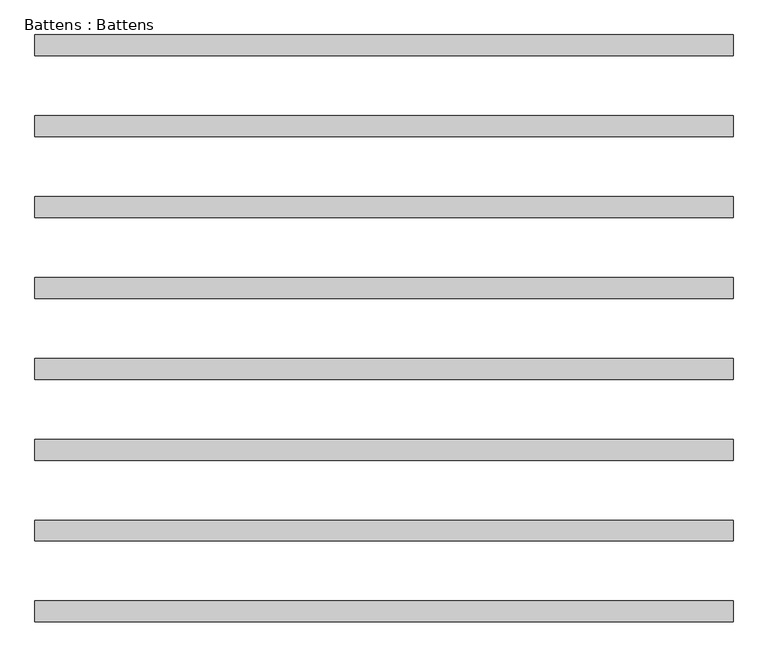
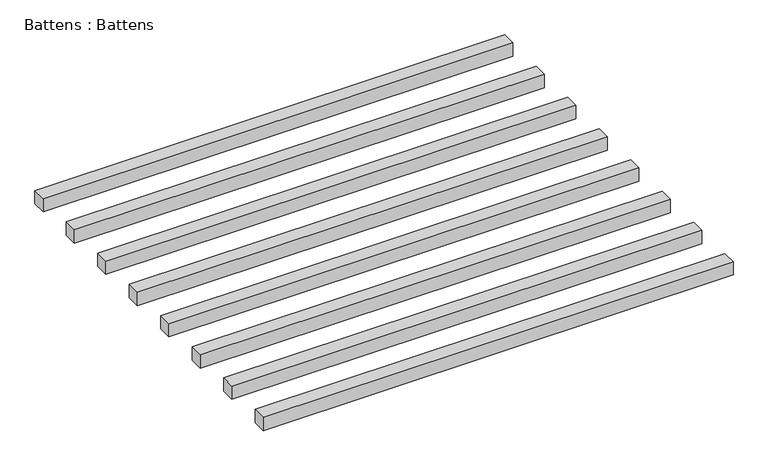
"""IFC4 building model written with IfcOpenShell, lengths in millimetres: proxy geometry, Battens : Battens."""

from ifc_helpers import new_model, si_unit, origin, origin_with_axes, place, context, project, spatial, polyline, outline, extrude, source, transform, mapped, element, save


def battens_battens_69cfc6a3(model_context):
    return source(origin(), model_context, "Body", "SweptSolid", [
        extrude(outline(polyline([(1337.0, -1065.0), (1337.0, -1105.0), (0.0, -1105.0), (0.0, -1065.0), (1337.0, -1065.0)])), origin_with_axes(), (0.0, 0.0, 1.0), 40.0),
        extrude(outline(polyline([(1337.0, -910.0), (1337.0, -950.0), (0.0, -950.0), (0.0, -910.0), (1337.0, -910.0)])), origin_with_axes(), (0.0, 0.0, 1.0), 40.0),
        extrude(outline(polyline([(1337.0, -755.0), (1337.0, -795.0), (0.0, -795.0), (0.0, -755.0), (1337.0, -755.0)])), origin_with_axes(), (0.0, 0.0, 1.0), 40.0),
        extrude(outline(polyline([(1337.0, -600.0), (1337.0, -640.0), (0.0, -640.0), (0.0, -600.0), (1337.0, -600.0)])), origin_with_axes(), (0.0, 0.0, 1.0), 40.0),
        extrude(outline(polyline([(1337.0, -445.0), (1337.0, -485.0), (0.0, -485.0), (0.0, -445.0), (1337.0, -445.0)])), origin_with_axes(), (0.0, 0.0, 1.0), 40.0),
        extrude(outline(polyline([(1337.0, -290.0), (1337.0, -330.0), (0.0, -330.0), (0.0, -290.0), (1337.0, -290.0)])), origin_with_axes(), (0.0, 0.0, 1.0), 40.0),
        extrude(outline(polyline([(1337.0, -135.0), (1337.0, -175.0), (0.0, -175.0), (0.0, -135.0), (1337.0, -135.0)])), origin_with_axes(), (0.0, 0.0, 1.0), 40.0),
        extrude(outline(polyline([(1337.0, 20.0), (1337.0, -20.0), (0.0, -20.0), (0.0, 20.0), (1337.0, 20.0)])), origin_with_axes(), (0.0, 0.0, 1.0), 40.0),
    ])


if __name__ == "__main__":
    model = new_model("IFC4")
    model_context = context("Model", 3, world=origin())
    ifc_project = project(units=[si_unit("LENGTHUNIT", "METRE", prefix="MILLI")], contexts=[model_context])
    site = spatial("IfcSite", under=ifc_project)
    building = spatial("IfcBuilding", under=site)
    placement = place(None, origin())
    battens_battens_shape = battens_battens_69cfc6a3(model_context)
    element("IfcBuildingElementProxy", 1, Name="Battens : Battens", ObjectType="Battens : Battens", at=placement, inside=building, context=model_context, shape_type="MappedRepresentation", body=[
        mapped(battens_battens_shape, transform((0.0, 0.0, 0.0), x_axis=(1.0, 0.0, 0.0), y_axis=(0.0, 1.0, 0.0), z_axis=(0.0, 0.0, 1.0))),
    ])
    save(model, "model.ifc")
